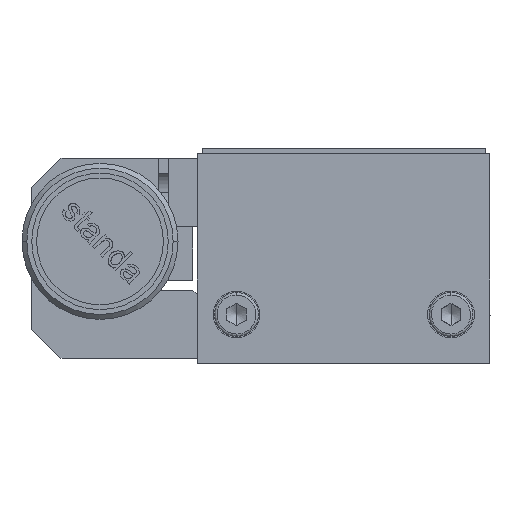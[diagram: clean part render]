
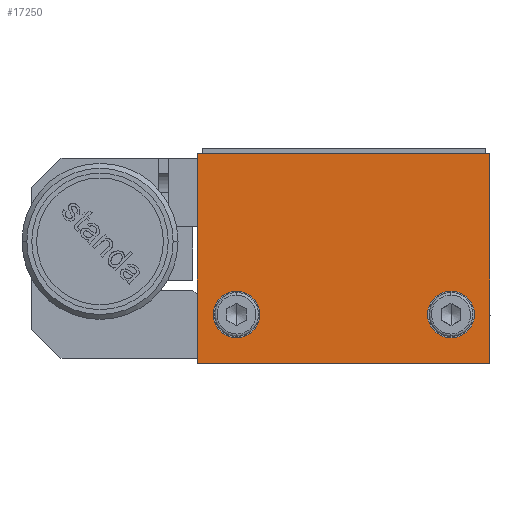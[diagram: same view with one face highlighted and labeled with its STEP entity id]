
A CAD part, left-side view. The second image highlights one B-rep face of the part: STEP entity #17250.
In plain terms, the highlighted planar face has unit normal (-1, 0, 0).
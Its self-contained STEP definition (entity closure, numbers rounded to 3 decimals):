
#8091 = DIRECTION ( 'NONE',  ( 0., -1., 0. ) ) ;
#8092 = DIRECTION ( 'NONE',  ( 1., 0., 0. ) ) ;
#8093 = CARTESIAN_POINT ( 'NONE',  ( -15.303, -7.481, -3.928 ) ) ;
#8094 = AXIS2_PLACEMENT_3D ( 'NONE', #8093, #8092, #8091 ) ;
#8095 = CIRCLE ( 'NONE', #8094, 2.4 ) ;
#8122 = DIRECTION ( 'NONE',  ( 0., -1., 0. ) ) ;
#8123 = DIRECTION ( 'NONE',  ( 1., 0., 0. ) ) ;
#8124 = CARTESIAN_POINT ( 'NONE',  ( -15.303, 14.519, -3.928 ) ) ;
#8125 = AXIS2_PLACEMENT_3D ( 'NONE', #8124, #8123, #8122 ) ;
#8131 = CIRCLE ( 'NONE', #8125, 2.4 ) ;
#11953 = EDGE_CURVE ( 'NONE', #11954, #12039, #24675, .T. ) ;
#11954 = VERTEX_POINT ( 'NONE', #24738 ) ;
#11962 = VERTEX_POINT ( 'NONE', #24725 ) ;
#11988 = VERTEX_POINT ( 'NONE', #24805 ) ;
#11994 = EDGE_CURVE ( 'NONE', #11988, #11962, #24797, .T. ) ;
#12039 = VERTEX_POINT ( 'NONE', #24847 ) ;
#16558 = EDGE_CURVE ( 'NONE', #16584, #16582, #34738, .T. ) ;
#16582 = VERTEX_POINT ( 'NONE', #34778 ) ;
#16584 = VERTEX_POINT ( 'NONE', #34777 ) ;
#17236 = ORIENTED_EDGE ( 'NONE', *, *, #21492, .T. ) ;
#17237 = EDGE_LOOP ( 'NONE', ( #17238, #17239 ) ) ;
#17238 = ORIENTED_EDGE ( 'NONE', *, *, #11953, .T. ) ;
#17239 = ORIENTED_EDGE ( 'NONE', *, *, #21512, .T. ) ;
#17250 = ADVANCED_FACE ( 'NONE', ( #36214, #36213, #36212 ), #36211, .T. ) ;
#17251 = EDGE_LOOP ( 'NONE', ( #17252, #17308, #17309, #17312 ) ) ;
#17252 = ORIENTED_EDGE ( 'NONE', *, *, #17253, .F. ) ;
#17253 = EDGE_CURVE ( 'NONE', #16584, #17254, #36206, .T. ) ;
#17254 = VERTEX_POINT ( 'NONE', #36202 ) ;
#17308 = ORIENTED_EDGE ( 'NONE', *, *, #16558, .T. ) ;
#17309 = ORIENTED_EDGE ( 'NONE', *, *, #17310, .F. ) ;
#17310 = EDGE_CURVE ( 'NONE', #17311, #16582, #36274, .T. ) ;
#17311 = VERTEX_POINT ( 'NONE', #36270 ) ;
#17312 = ORIENTED_EDGE ( 'NONE', *, *, #17313, .F. ) ;
#17313 = EDGE_CURVE ( 'NONE', #17254, #17311, #36269, .T. ) ;
#17314 = EDGE_LOOP ( 'NONE', ( #17315, #17236 ) ) ;
#17315 = ORIENTED_EDGE ( 'NONE', *, *, #11994, .T. ) ;
#21492 = EDGE_CURVE ( 'NONE', #11962, #11988, #8095, .T. ) ;
#21512 = EDGE_CURVE ( 'NONE', #12039, #11954, #8131, .T. ) ;
#24675 = CIRCLE ( 'NONE', #24742, 2.4 ) ;
#24725 = CARTESIAN_POINT ( 'NONE',  ( -15.303, -5.081, -3.928 ) ) ;
#24738 = CARTESIAN_POINT ( 'NONE',  ( -15.303, 12.119, -3.928 ) ) ;
#24739 = DIRECTION ( 'NONE',  ( 0., -1., 0. ) ) ;
#24740 = DIRECTION ( 'NONE',  ( 1., 0., 0. ) ) ;
#24741 = CARTESIAN_POINT ( 'NONE',  ( -15.303, 14.519, -3.928 ) ) ;
#24742 = AXIS2_PLACEMENT_3D ( 'NONE', #24741, #24740, #24739 ) ;
#24793 = DIRECTION ( 'NONE',  ( 0., -1., 0. ) ) ;
#24794 = DIRECTION ( 'NONE',  ( 1., 0., 0. ) ) ;
#24795 = CARTESIAN_POINT ( 'NONE',  ( -15.303, -7.481, -3.928 ) ) ;
#24796 = AXIS2_PLACEMENT_3D ( 'NONE', #24795, #24794, #24793 ) ;
#24797 = CIRCLE ( 'NONE', #24796, 2.4 ) ;
#24805 = CARTESIAN_POINT ( 'NONE',  ( -15.303, -9.881, -3.928 ) ) ;
#24847 = CARTESIAN_POINT ( 'NONE',  ( -15.303, 16.919, -3.928 ) ) ;
#34731 = DIRECTION ( 'NONE',  ( 0., 1., 0. ) ) ;
#34732 = VECTOR ( 'NONE', #34731, 1000. ) ;
#34733 = CARTESIAN_POINT ( 'NONE',  ( -15.303, 3.519, 12.572 ) ) ;
#34738 = LINE ( 'NONE', #34733, #34732 ) ;
#34777 = CARTESIAN_POINT ( 'NONE',  ( -15.303, -11.481, 12.572 ) ) ;
#34778 = CARTESIAN_POINT ( 'NONE',  ( -15.303, 18.519, 12.572 ) ) ;
#36202 = CARTESIAN_POINT ( 'NONE',  ( -15.303, -11.481, -8.928 ) ) ;
#36203 = DIRECTION ( 'NONE',  ( 0., 0., -1. ) ) ;
#36204 = VECTOR ( 'NONE', #36203, 1000. ) ;
#36205 = CARTESIAN_POINT ( 'NONE',  ( -15.303, -11.481, 12.572 ) ) ;
#36206 = LINE ( 'NONE', #36205, #36204 ) ;
#36207 = DIRECTION ( 'NONE',  ( 0., -1., 0. ) ) ;
#36208 = DIRECTION ( 'NONE',  ( -1., 0., 0. ) ) ;
#36209 = CARTESIAN_POINT ( 'NONE',  ( -15.303, 3.519, 1.822 ) ) ;
#36210 = AXIS2_PLACEMENT_3D ( 'NONE', #36209, #36208, #36207 ) ;
#36211 = PLANE ( 'NONE',  #36210 ) ;
#36212 = FACE_BOUND ( 'NONE', #17237, .T. ) ;
#36213 = FACE_BOUND ( 'NONE', #17314, .T. ) ;
#36214 = FACE_OUTER_BOUND ( 'NONE', #17251, .T. ) ;
#36266 = DIRECTION ( 'NONE',  ( 0., 1., 0. ) ) ;
#36267 = VECTOR ( 'NONE', #36266, 1000. ) ;
#36268 = CARTESIAN_POINT ( 'NONE',  ( -15.303, -11.481, -8.928 ) ) ;
#36269 = LINE ( 'NONE', #36268, #36267 ) ;
#36270 = CARTESIAN_POINT ( 'NONE',  ( -15.303, 18.519, -8.928 ) ) ;
#36271 = DIRECTION ( 'NONE',  ( 0., 0., 1. ) ) ;
#36272 = VECTOR ( 'NONE', #36271, 1000. ) ;
#36273 = CARTESIAN_POINT ( 'NONE',  ( -15.303, 18.519, -8.928 ) ) ;
#36274 = LINE ( 'NONE', #36273, #36272 ) ;
